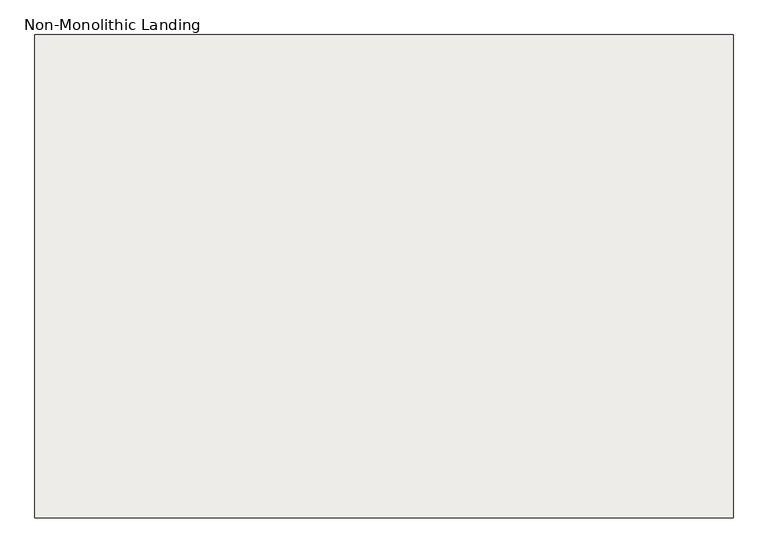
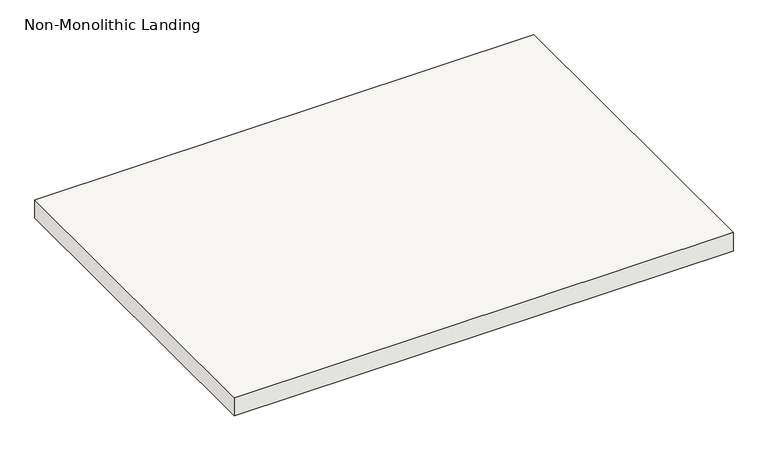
"""IFC4 building model written with IfcOpenShell, lengths in millimetres: slab geometry, Non-Monolithic Landing."""

from ifc_helpers import new_model, si_unit, frame, origin, place, context, project, spatial, polyline, outline, extrude, source, transform, mapped, element, save


def non_monolithic_landing_68df8a4a(model_context):
    return source(origin(), model_context, "Body", "SweptSolid", [
        extrude(outline(polyline([(87742.3765442, 33246.6812523), (89063.1765442, 33246.6812523), (89063.1765442, 32332.2812523), (87742.3765442, 32332.2812523), (87742.3765442, 33246.6812523)])), frame((0.0, 0.0, 2126.3428571), z_axis=(0.0, 0.0, 1.0), x_axis=(1.0, 0.0, 0.0)), (0.0, 0.0, 1.0), 50.8),
    ])


if __name__ == "__main__":
    model = new_model("IFC4")
    model_context = context("Model", 3, world=origin())
    ifc_project = project(units=[si_unit("LENGTHUNIT", "METRE", prefix="MILLI")], contexts=[model_context])
    site = spatial("IfcSite", under=ifc_project)
    building = spatial("IfcBuilding", under=site)
    placement = place(None, origin())
    non_monolithic_landing_shape = non_monolithic_landing_68df8a4a(model_context)
    element("IfcSlab", 1, ObjectType="Non-Monolithic Landing", at=placement, inside=building, context=model_context, shape_type="MappedRepresentation", body=[
        mapped(non_monolithic_landing_shape, transform((0.0, 0.0, 0.0), x_axis=(1.0, 0.0, 0.0), y_axis=(0.0, 1.0, 0.0), z_axis=(0.0, 0.0, 1.0))),
    ])
    save(model, "model.ifc")
